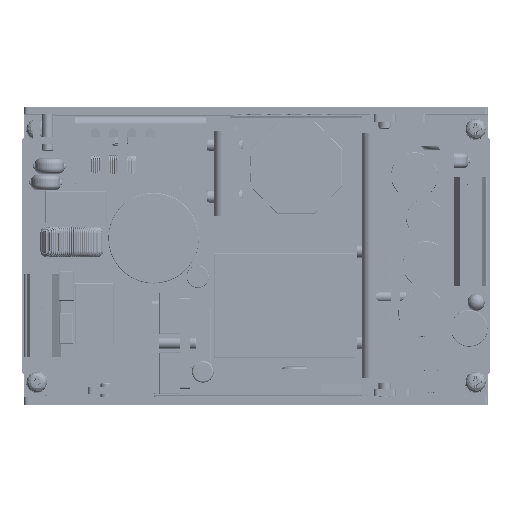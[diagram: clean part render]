
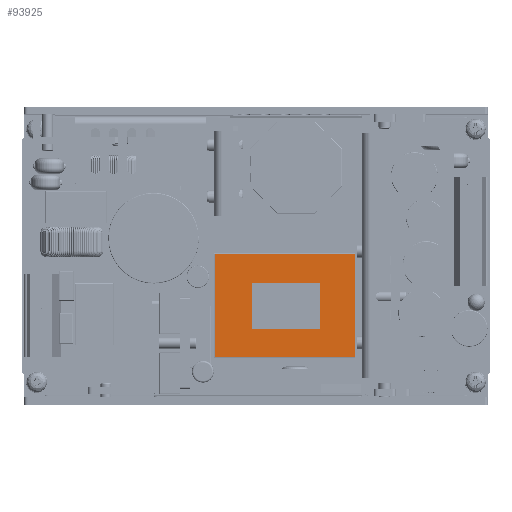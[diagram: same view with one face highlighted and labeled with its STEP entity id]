
A CAD part, top view. The second image highlights one B-rep face of the part: STEP entity #93925.
In plain terms, the highlighted planar face has unit normal (0, 0, 1).
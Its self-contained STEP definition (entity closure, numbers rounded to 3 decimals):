
#7149=FACE_BOUND($,#16451,.T.);
#7150=FACE_BOUND($,#16452,.T.);
#7662=PLANE($,#101542);
#16451=EDGE_LOOP($,(#61305,#61306,#61307,#61308));
#16452=EDGE_LOOP($,(#61309,#61310,#61311,#61312));
#24070=LINE($,#151509,#28124);
#24073=LINE($,#151515,#28127);
#24076=LINE($,#151521,#28130);
#24079=LINE($,#151525,#28133);
#24218=LINE($,#151893,#28272);
#24220=LINE($,#151901,#28274);
#24222=LINE($,#151907,#28276);
#24224=LINE($,#151912,#28278);
#28124=VECTOR($,#117216,12.539);
#28127=VECTOR($,#117221,18.524);
#28130=VECTOR($,#117226,12.539);
#28133=VECTOR($,#117231,18.524);
#28272=VECTOR($,#117600,38.294);
#28274=VECTOR($,#117608,28.374);
#28276=VECTOR($,#117614,38.294);
#28278=VECTOR($,#117620,28.374);
#39450=VERTEX_POINT($,#151506);
#39451=VERTEX_POINT($,#151508);
#39453=VERTEX_POINT($,#151514);
#39455=VERTEX_POINT($,#151520);
#39568=VERTEX_POINT($,#151891);
#39569=VERTEX_POINT($,#151892);
#39572=VERTEX_POINT($,#151900);
#39574=VERTEX_POINT($,#151906);
#46571=EDGE_CURVE($,#39451,#39450,#24070,.T.);
#46574=EDGE_CURVE($,#39453,#39451,#24073,.T.);
#46577=EDGE_CURVE($,#39455,#39453,#24076,.T.);
#46580=EDGE_CURVE($,#39450,#39455,#24079,.T.);
#46756=EDGE_CURVE($,#39568,#39569,#24218,.T.);
#46760=EDGE_CURVE($,#39569,#39572,#24220,.T.);
#46763=EDGE_CURVE($,#39572,#39574,#24222,.T.);
#46766=EDGE_CURVE($,#39574,#39568,#24224,.T.);
#61305=ORIENTED_EDGE($,*,*,#46571,.T.);
#61306=ORIENTED_EDGE($,*,*,#46580,.T.);
#61307=ORIENTED_EDGE($,*,*,#46577,.T.);
#61308=ORIENTED_EDGE($,*,*,#46574,.T.);
#61309=ORIENTED_EDGE($,*,*,#46756,.F.);
#61310=ORIENTED_EDGE($,*,*,#46766,.F.);
#61311=ORIENTED_EDGE($,*,*,#46763,.F.);
#61312=ORIENTED_EDGE($,*,*,#46760,.F.);
#93925=ADVANCED_FACE($,(#7149,#7150),#7662,.T.);
#101542=AXIS2_PLACEMENT_3D($,#151924,#117631,#117632);
#117216=DIRECTION($,(0.,1.,0.));
#117221=DIRECTION($,(-1.,0.,0.));
#117226=DIRECTION($,(0.,-1.,0.));
#117231=DIRECTION($,(1.,0.,0.));
#117600=DIRECTION($,(1.,0.,0.));
#117608=DIRECTION($,(0.,-1.,0.));
#117614=DIRECTION($,(-1.,0.,0.));
#117620=DIRECTION($,(0.,1.,0.));
#117631=DIRECTION('center_axis',(0.,0.,
1.));
#117632=DIRECTION('ref_axis',(1.,0.,0.));
#151506=CARTESIAN_POINT('',(62.385,30.647,22.6));
#151508=CARTESIAN_POINT('',(62.385,18.108,22.6));
#151509=CARTESIAN_POINT($,(62.385,27.547,22.6));
#151514=CARTESIAN_POINT('',(80.909,18.108,22.6));
#151515=CARTESIAN_POINT($,(66.83,18.108,22.6));
#151520=CARTESIAN_POINT('',(80.909,30.647,22.6));
#151521=CARTESIAN_POINT($,(80.909,21.277,22.6));
#151525=CARTESIAN_POINT($,(76.092,30.647,22.6));
#151891=CARTESIAN_POINT('',(52.127,38.633,22.6));
#151892=CARTESIAN_POINT('',(90.422,38.633,22.6));
#151893=CARTESIAN_POINT($,(61.601,38.633,22.6));
#151900=CARTESIAN_POINT('',(90.422,10.259,22.6));
#151901=CARTESIAN_POINT($,(90.422,31.639,22.6));
#151906=CARTESIAN_POINT('',(52.127,10.259,22.6));
#151907=CARTESIAN_POINT($,(80.948,10.259,22.6));
#151912=CARTESIAN_POINT($,(52.127,17.252,22.6));
#151924=CARTESIAN_POINT('Origin',(71.274,24.446,22.6));
